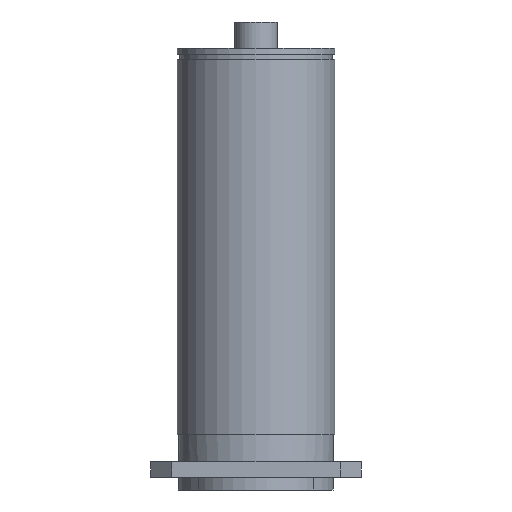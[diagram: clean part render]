
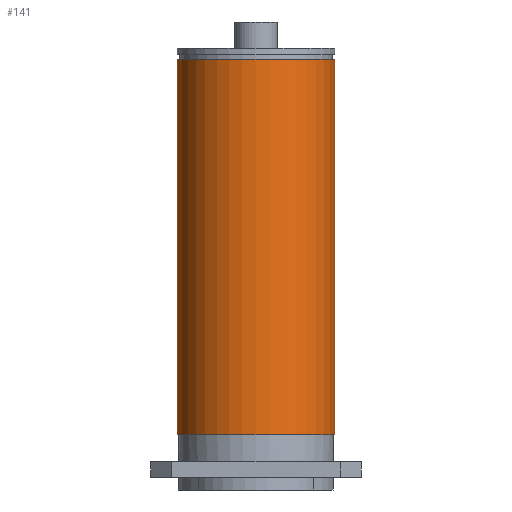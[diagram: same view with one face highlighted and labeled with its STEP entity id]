
A CAD part, front view. The second image highlights one B-rep face of the part: STEP entity #141.
In plain terms, the highlighted cylindrical face has radius 1.5 mm (diameter 3 mm), a full revolution.
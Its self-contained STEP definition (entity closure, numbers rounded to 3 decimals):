
#91=CYLINDRICAL_SURFACE('',#1189,1.5);
#115=FACE_BOUND('',#313,.T.);
#116=FACE_BOUND('',#314,.T.);
#141=ADVANCED_FACE('',(#115,#116),#91,.T.);
#313=EDGE_LOOP('',(#438));
#314=EDGE_LOOP('',(#439));
#387=CIRCLE('',#1185,1.5);
#388=CIRCLE('',#1187,1.5);
#438=ORIENTED_EDGE('',*,*,#834,.F.);
#439=ORIENTED_EDGE('',*,*,#835,.T.);
#725=VERTEX_POINT('',#1580);
#726=VERTEX_POINT('',#1583);
#834=EDGE_CURVE('',#725,#725,#387,.T.);
#835=EDGE_CURVE('',#726,#726,#388,.T.);
#1185=AXIS2_PLACEMENT_3D('',#1579,#1307,#1308);
#1187=AXIS2_PLACEMENT_3D('',#1582,#1311,#1312);
#1189=AXIS2_PLACEMENT_3D('',#1585,#1315,#1316);
#1307=DIRECTION('',(0.,0.,-1.));
#1308=DIRECTION('',(-1.,0.,0.));
#1311=DIRECTION('',(0.,0.,-1.));
#1312=DIRECTION('',(-1.,0.,0.));
#1315=DIRECTION('',(0.,0.,-1.));
#1316=DIRECTION('',(-1.,0.,0.));
#1579=CARTESIAN_POINT('',(0.,0.,-7.35));
#1580=CARTESIAN_POINT('',(-1.5,0.,-7.35));
#1582=CARTESIAN_POINT('',(0.,0.,-0.21));
#1583=CARTESIAN_POINT('',(-1.5,0.,-0.21));
#1585=CARTESIAN_POINT('',(0.,0.,-0.21));
